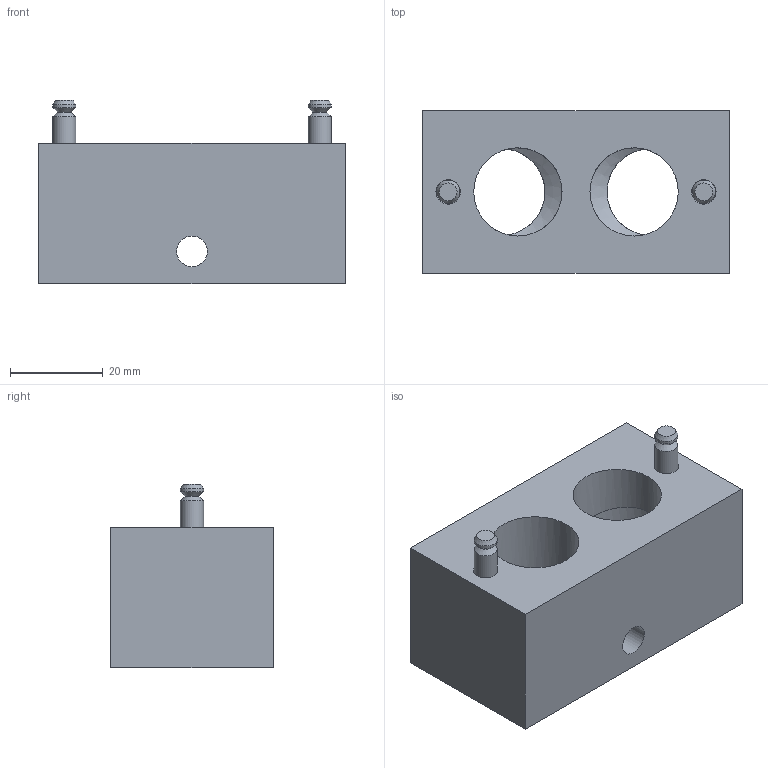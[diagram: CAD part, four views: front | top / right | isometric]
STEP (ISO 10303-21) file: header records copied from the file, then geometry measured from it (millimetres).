
FILE_DESCRIPTION(/* description */ ('Unknown','CAx-IF Rec.Pracs.---Representation and Presentation of Product Manufacturing Information (PMI)---4.0---2014-10-13','CAx-IF Rec.Pracs.---3D Tessellated Geometry---0.4---2014-09-14','2;1'),/* implementation_level */ '2;1');
FILE_NAME(/* name */ 'R 3 103 GL',/* time_stamp */ '2019-05-23T08:18:09+02:00',/* author */ ('Unknown'),/* organization */ ('Unknown'),/* preprocessor_version */ 'ST-DEVELOPER v16.7',/* originating_system */ 'DEX',/* authorisation */ $);
FILE_SCHEMA (('AP242_MANAGED_MODEL_BASED_3D_ENGINEERING_MIM_LF { 1 0 10303 442 20130219 1 4 }'));
Length unit declared in the file: millimetre
Products named in the file (3): R 3 103 GL; BO 18 05; AR 3 103 GL
Assembly tree (3 placements, depth 2):
  R 3 103 GL
    BO 18 05  x2
    AR 3 103 GL
Bounding box: 66 x 35 x 39.55 mm (x, y, z)
Volume: 51232.1 mm3; surface area: 14955.4 mm2
Topology: 3 solids, 3 shells, 58 faces, 140 edges, 90 vertices
Faces by surface type: plane 20, cone 18, cylinder 14, bspline 6
Full cylindrical faces by diameter (mm): 5 x6, 6.6 x1, 18.631 x2, 19 x2
Entity records: 1942 total; most frequent: CARTESIAN_POINT 534, DIRECTION 201, ORIENTED_EDGE 192, EDGE_CURVE 96, FACE_BOUND 79, EDGE_LOOP 77, AXIS2_PLACEMENT_3D 77, VERTEX_POINT 73
